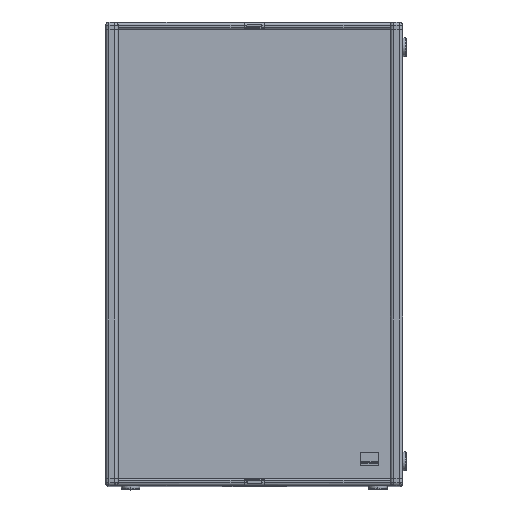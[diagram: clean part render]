
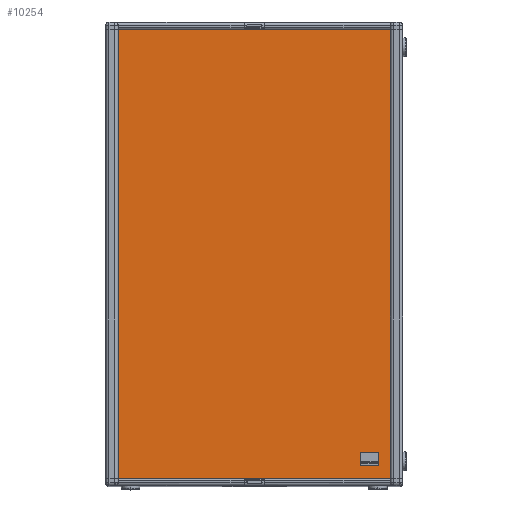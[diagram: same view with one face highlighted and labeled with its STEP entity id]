
A CAD part, top view. The second image highlights one B-rep face of the part: STEP entity #10254.
In plain terms, the highlighted planar face has unit normal (0, 0, 1) as drawn and (0, -1, 0) by its records, which use the part's own axes.
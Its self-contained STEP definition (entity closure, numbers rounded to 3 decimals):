
#6411 = FACE_OUTER_BOUND ( 'NONE', #10255, .T. ) ;
#6449 = CARTESIAN_POINT ( 'NONE',  ( 575., 15.114, -447.074 ) ) ;
#6450 = DIRECTION ( 'NONE',  ( 1., 0., 0. ) ) ;
#6451 = VECTOR ( 'NONE', #6450, 1000. ) ;
#6452 = CARTESIAN_POINT ( 'NONE',  ( 575., 15.114, -447.074 ) ) ;
#6456 = LINE ( 'NONE', #6452, #6451 ) ;
#6460 = DIRECTION ( 'NONE',  ( 0., 0., -1. ) ) ;
#6461 = VECTOR ( 'NONE', #6460, 1000. ) ;
#6462 = CARTESIAN_POINT ( 'NONE',  ( 26., 15.114, -447.074 ) ) ;
#6463 = LINE ( 'NONE', #6462, #6461 ) ;
#6464 = CARTESIAN_POINT ( 'NONE',  ( 26., 15.114, -447.074 ) ) ;
#6469 = DIRECTION ( 'NONE',  ( 0., 0., -1. ) ) ;
#6470 = DIRECTION ( 'NONE',  ( 0., -1., 0. ) ) ;
#6471 = CARTESIAN_POINT ( 'NONE',  ( 575., 15.114, -447.074 ) ) ;
#6472 = AXIS2_PLACEMENT_3D ( 'NONE', #6471, #6470, #6469 ) ;
#6473 = PLANE ( 'NONE',  #6472 ) ;
#6497 = CARTESIAN_POINT ( 'NONE',  ( 575., 15.114, 458.926 ) ) ;
#6498 = DIRECTION ( 'NONE',  ( -1., 0., 0. ) ) ;
#6499 = VECTOR ( 'NONE', #6498, 1000. ) ;
#6500 = CARTESIAN_POINT ( 'NONE',  ( 575., 15.114, 458.926 ) ) ;
#6501 = LINE ( 'NONE', #6500, #6499 ) ;
#6502 = CARTESIAN_POINT ( 'NONE',  ( 26., 15.114, 458.926 ) ) ;
#6548 = LINE ( 'NONE', #6596, #6595 ) ;
#6594 = DIRECTION ( 'NONE',  ( 0., 0., 1. ) ) ;
#6595 = VECTOR ( 'NONE', #6594, 1000. ) ;
#6596 = CARTESIAN_POINT ( 'NONE',  ( 575., 15.114, -447.074 ) ) ;
#10254 = ADVANCED_FACE ( 'NONE', ( #6411 ), #6473, .T. ) ;
#10255 = EDGE_LOOP ( 'NONE', ( #10256, #10310, #10311, #10312 ) ) ;
#10256 = ORIENTED_EDGE ( 'NONE', *, *, #10266, .T. ) ;
#10258 = VERTEX_POINT ( 'NONE', #6464 ) ;
#10260 = EDGE_CURVE ( 'NONE', #10275, #10258, #6463, .T. ) ;
#10266 = EDGE_CURVE ( 'NONE', #10258, #10267, #6456, .T. ) ;
#10267 = VERTEX_POINT ( 'NONE', #6449 ) ;
#10275 = VERTEX_POINT ( 'NONE', #6502 ) ;
#10277 = EDGE_CURVE ( 'NONE', #10278, #10275, #6501, .T. ) ;
#10278 = VERTEX_POINT ( 'NONE', #6497 ) ;
#10310 = ORIENTED_EDGE ( 'NONE', *, *, #10332, .T. ) ;
#10311 = ORIENTED_EDGE ( 'NONE', *, *, #10277, .T. ) ;
#10312 = ORIENTED_EDGE ( 'NONE', *, *, #10260, .T. ) ;
#10332 = EDGE_CURVE ( 'NONE', #10267, #10278, #6548, .T. ) ;
